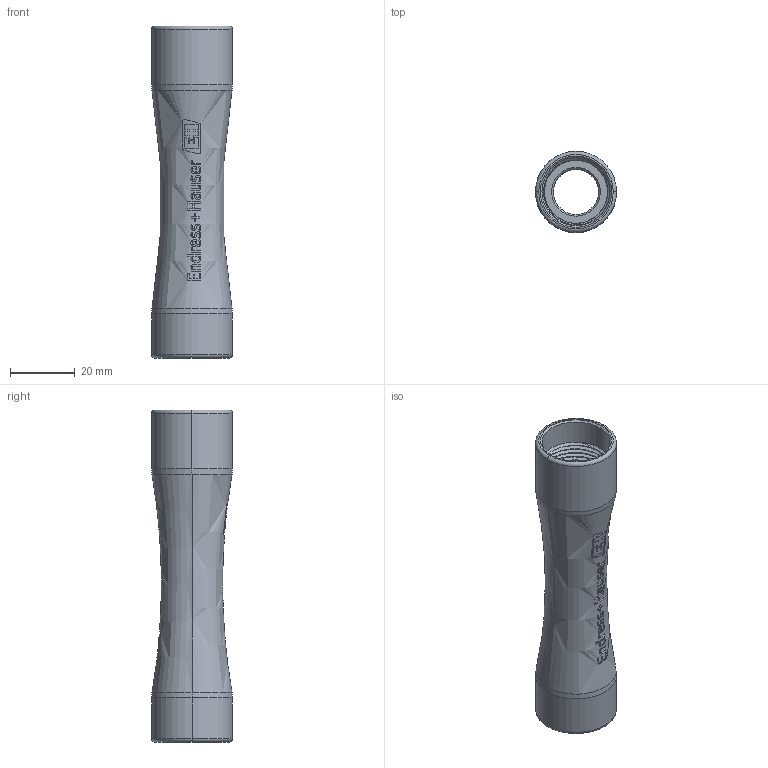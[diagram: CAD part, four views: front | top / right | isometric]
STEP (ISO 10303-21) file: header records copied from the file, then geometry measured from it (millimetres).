
FILE_DESCRIPTION((''),'2;1');
FILE_NAME('231283379_EHP_000','2023-07-04T12:50:55',('i00504253'),('Endress+Hauser'),'CREO PARAMETRIC BY PTC INC, 2021404','CREO PARAMETRIC BY PTC INC, 2021404','');
FILE_SCHEMA(('AP242_MANAGED_MODEL_BASED_3D_ENGINEERING_MIM_LF { 1 0 10303 442 1 1 4 }'));
Products named in the file (1): 231283379_EHP_000
Bounding box: 25 x 25 x 102.5 mm (x, y, z)
Volume: 19736.5 mm3; surface area: 13596 mm2
Topology: 1 solids, 1 shells, 578 faces, 1514 edges, 982 vertices
Faces by surface type: plane 255, extrusion 148, bspline 65, torus 52, cylinder 48, cone 10
Entity records: 41798 total; most frequent: CARTESIAN_POINT 23410, ORIENTED_EDGE 3028, DIRECTION 1945, PRESENTATION_STYLE_ASSIGNMENT 1547, STYLED_ITEM 1517, CURVE_STYLE 1514, EDGE_CURVE 1514, VERTEX_POINT 982
